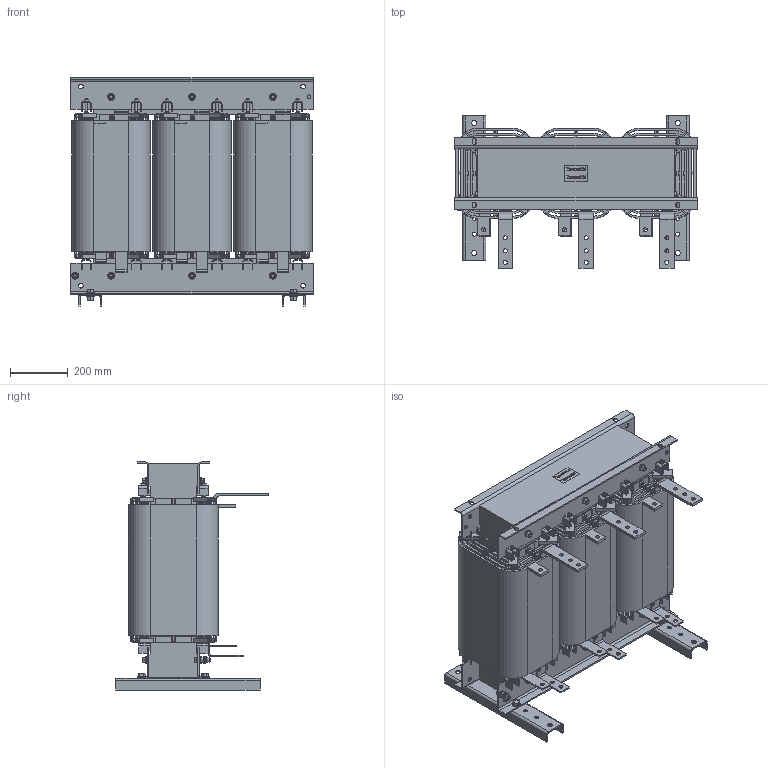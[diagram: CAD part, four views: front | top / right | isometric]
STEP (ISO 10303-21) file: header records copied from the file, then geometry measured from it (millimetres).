
FILE_DESCRIPTION((''),'2;1');
FILE_NAME('C:\Users\fp1\CAD-Daten\DTF\DTF200 690 230.stp','2014-07-01T10:44:12',('FP1'),(''),'Autodesk Inventor 2013','Autodesk Inventor 2013','');
FILE_SCHEMA(('AUTOMOTIVE_DESIGN { 1 0 10303 214 1 1 1 1 }'));
Length unit declared in the file: millimetre
Products named in the file (1): Bauteil148
Bounding box: 840 x 528.6 x 790 mm (x, y, z)
Volume: 102102828.6 mm3; surface area: 16480729 mm2
Topology: 28 solids, 28 shells, 5254 faces, 15416 edges, 10160 vertices
Faces by surface type: plane 3782, cylinder 1139, cone 195, bspline 136, torus 2
Full cylindrical faces by diameter (mm): 8 x24, 11.63 x12, 12 x14, 13 x5, 14 x29, 16 x8, 16.63 x1, 18 x4, 19.37 x4, 21 x12, 24 x14, 28 x8
Entity records: 172076 total; most frequent: CARTESIAN_POINT 35669, ORIENTED_EDGE 30250, DIRECTION 26626, EDGE_CURVE 15125, VECTOR 10262, LINE 10262, VERTEX_POINT 10097, AXIS2_PLACEMENT_3D 8182
